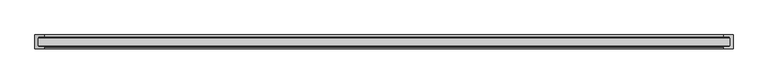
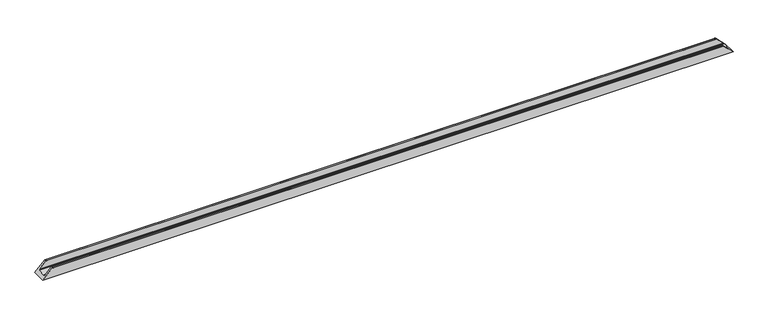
"""IFC4 building model written with IfcOpenShell, lengths in millimetres: proxy geometry, Weiku - Montante - Caixilho único 02.3.02.403 : Weiku - Montante - Caixilho único 02.3.02.403."""

from ifc_helpers import new_model, si_unit, frame, origin, place, context, project, spatial, ellipse_curve, source, transform, mapped, element, save
from ifc_brep_helpers import plane_surface, cylinder_surface, advanced_brep


def generic_models_b6feb387(model_context):
    return source(origin(), model_context, "Body", "AdvancedBrep", [
        advanced_brep(
        [(-1977.8, -9.8, 18.2), (1977.8, -9.8, 18.2), (1940.1, -9.8, 55.9), (-1940.1, -9.8, 55.9), (-1980.3000079, -63.85, 15.6999921), (1980.3000079, -63.85, 15.6999921), (1980.3000079, -15.05, 15.6999921), (-1980.3000079, -15.05, 15.6999921), (-1996.0, -78.9, 0.0), (-1996.0, 0.0, 0.0), (1996.0, 0.0, 0.0), (1996.0, -78.9, 0.0), (-1940.1, 0.0, 55.9), (1940.1, 0.0, 55.9), (-1939.6, -9.3, 56.4), (1939.6, -9.3, 56.4), (1939.6, -0.5, 56.4), (-1939.6, -0.5, 56.4), (-1977.8, -15.05, 18.2), (1977.8, -15.05, 18.2), (-1977.8, -63.85, 18.2), (1977.8, -63.85, 18.2), (-1977.8, -69.1, 18.2), (1977.8, -69.1, 18.2), (-1940.1, -69.1, 55.9), (1940.1, -69.1, 55.9), (-1939.6, -78.4, 56.4), (1939.6, -78.4, 56.4), (1939.6, -69.6, 56.4), (-1939.6, -69.6, 56.4), (-1940.1, -78.9, 55.9), (1940.1, -78.9, 55.9)],
        [
            (0, 1),
            (1, 2),
            (2, 3),
            (3, 0),
            (4, 5),
            (5, 6),
            (6, 7),
            (7, 4),
            (8, 9),
            (9, 10),
            (10, 11),
            (11, 8),
            (9, 12),
            (12, 13),
            (13, 10),
            (14, 15),
            (15, 16),
            (16, 17),
            (17, 14),
            (18, 19),
            (19, 1),
            (0, 18),
            (6, 19),
            (18, 7),
            (16, 13, ellipse_curve(frame((1940.1, -0.5, 55.9), z_axis=(-0.7071067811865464, 0.0, -0.7071067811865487), x_axis=(-0.7071067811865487, 0.0, 0.7071067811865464)), 0.7071068, 0.5)),
            (12, 17, ellipse_curve(frame((-1940.1, -0.5, 55.9), z_axis=(0.7071067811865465, 0.0, -0.7071067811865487), x_axis=(-0.7071067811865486, 0.0, -0.7071067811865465)), 0.7071068, 0.5)),
            (20, 21),
            (21, 5),
            (4, 20),
            (22, 23),
            (23, 21),
            (20, 22),
            (24, 25),
            (25, 23),
            (22, 24),
            (26, 27),
            (27, 28),
            (28, 29),
            (29, 26),
            (30, 31),
            (31, 27, ellipse_curve(frame((1940.1, -78.4, 55.9), z_axis=(-0.7071067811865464, 0.0, -0.7071067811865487), x_axis=(-0.7071067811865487, 0.0, 0.7071067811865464)), 0.7071068, 0.5)),
            (26, 30, ellipse_curve(frame((-1940.1, -78.4, 55.9), z_axis=(0.7071067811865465, 0.0, -0.7071067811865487), x_axis=(-0.7071067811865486, 0.0, -0.7071067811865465)), 0.7071068, 0.5)),
            (11, 31),
            (30, 8),
            (2, 15, ellipse_curve(frame((1940.1, -9.3, 55.9), z_axis=(-0.7071067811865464, 0.0, -0.7071067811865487), x_axis=(-0.7071067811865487, 0.0, 0.7071067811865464)), 0.7071068, 0.5)),
            (14, 3, ellipse_curve(frame((-1940.1, -9.3, 55.9), z_axis=(0.7071067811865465, 0.0, -0.7071067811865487), x_axis=(-0.7071067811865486, 0.0, -0.7071067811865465)), 0.7071068, 0.5)),
            (28, 25, ellipse_curve(frame((1940.1, -69.6, 55.9), z_axis=(-0.7071067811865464, 0.0, -0.7071067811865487), x_axis=(-0.7071067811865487, 0.0, 0.7071067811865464)), 0.7071068, 0.5)),
            (24, 29, ellipse_curve(frame((-1940.1, -69.6, 55.9), z_axis=(0.7071067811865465, 0.0, -0.7071067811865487), x_axis=(-0.7071067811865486, 0.0, -0.7071067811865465)), 0.7071068, 0.5)),
        ],
        [
            plane_surface(frame((-1996.0, -9.8, 55.9), z_axis=(0.0, -1.0, 0.0), x_axis=(1.0, 0.0, 0.0))),
            plane_surface(frame((-1996.0, -15.05, 15.6999921), z_axis=(0.0, 0.0, 1.0), x_axis=(1.0, 0.0, 0.0))),
            plane_surface(frame((-1996.0, -78.9, 0.0), z_axis=(0.0, 0.0, -1.0), x_axis=(1.0, 0.0, 0.0))),
            plane_surface(frame((-1996.0, 0.0, 0.0), z_axis=(0.0, 1.0, 0.0), x_axis=(1.0, 0.0, 0.0))),
            plane_surface(frame((-1996.0, -0.5, 56.4), z_axis=(0.0, 0.0, 1.0), x_axis=(1.0, 0.0, 0.0))),
            plane_surface(frame((-1996.0, -9.8, 18.2), z_axis=(0.0, 0.0, 1.0), x_axis=(1.0, 0.0, 0.0))),
            plane_surface(frame((-1996.0, -15.05, 18.2), z_axis=(0.0, -1.0, 0.0), x_axis=(1.0, 0.0, 0.0))),
            cylinder_surface(frame((-1996.0, -0.5, 55.9), z_axis=(-1.0, 0.0, 0.0), x_axis=(0.0, -1.0, 0.0)), 0.5),
            plane_surface(frame((-1996.0, -63.85, 15.6999921), z_axis=(0.0, 1.0, 0.0), x_axis=(1.0, 0.0, 0.0))),
            plane_surface(frame((-1996.0, -63.85, 18.2), z_axis=(0.0, 0.0, 1.0), x_axis=(1.0, 0.0, 0.0))),
            plane_surface(frame((-1996.0, -69.1, 18.2), z_axis=(0.0, 1.0, 0.0), x_axis=(1.0, 0.0, 0.0))),
            plane_surface(frame((-1996.0, -69.6, 56.4), z_axis=(0.0, 0.0, 1.0), x_axis=(1.0, 0.0, 0.0))),
            cylinder_surface(frame((-1996.0, -78.4, 55.9), z_axis=(-1.0, 0.0, 0.0), x_axis=(0.0, 1.0, 0.0)), 0.5),
            plane_surface(frame((-1996.0, -78.9, 55.9), z_axis=(0.0, -1.0, 0.0), x_axis=(1.0, 0.0, 0.0))),
            cylinder_surface(frame((-1996.0, -9.3, 55.9), z_axis=(-1.0, 0.0, 0.0), x_axis=(0.0, -1.0, 0.0)), 0.5),
            cylinder_surface(frame((-1996.0, -69.6, 55.9), z_axis=(-1.0, 0.0, 0.0), x_axis=(0.0, -1.0, 0.0)), 0.5),
            plane_surface(frame((-1996.0, 0.0, 0.0), z_axis=(-0.7071067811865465, 0.0, 0.7071067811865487), x_axis=(0.0, -1.0, 0.0))),
            plane_surface(frame((1936.0, 0.0, 60.0), z_axis=(0.7071067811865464, 0.0, 0.7071067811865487), x_axis=(0.0, -1.0, 0.0))),
        ],
        [
            (0, [[1, 2, 3, 4]]),
            (1, [[5, 6, 7, 8]]),
            (2, [[9, 10, 11, 12]]),
            (3, [[13, 14, 15, -10]]),
            (4, [[16, 17, 18, 19]]),
            (5, [[20, 21, -1, 22]]),
            (6, [[-7, 23, -20, 24]]),
            (7, [[-18, 25, -14, 26]]),
            (8, [[27, 28, -5, 29]]),
            (9, [[30, 31, -27, 32]]),
            (10, [[33, 34, -30, 35]]),
            (11, [[36, 37, 38, 39]]),
            (12, [[40, 41, -36, 42]]),
            (13, [[43, -40, 44, -12]]),
            (14, [[-3, 45, -16, 46]]),
            (15, [[-38, 47, -33, 48]]),
            (16, [[-46, -19, -26, -13, -9, -44, -42, -39, -48, -35, -32, -29, -8, -24, -22, -4]]),
            (17, [[-21, -23, -6, -28, -31, -34, -47, -37, -41, -43, -11, -15, -25, -17, -45, -2]]),
        ],
    ),
    ])


if __name__ == "__main__":
    model = new_model("IFC4")
    model_context = context("Model", 3, world=origin())
    ifc_project = project(units=[si_unit("LENGTHUNIT", "METRE", prefix="MILLI")], contexts=[model_context])
    site = spatial("IfcSite", under=ifc_project)
    building = spatial("IfcBuilding", under=site)
    placement = place(None, origin())
    generic_models_shape = generic_models_b6feb387(model_context)
    element("IfcBuildingElementProxy", 1, Name="Weiku - Montante - Caixilho único 02.3.02.403 : Weiku - Montante - Caixilho único 02.3.02.403", ObjectType="Weiku - Montante - Caixilho único 02.3.02.403 : Weiku - Montante - Caixilho único 02.3.02.403", at=placement, inside=building, context=model_context, shape_type="MappedRepresentation", body=[
        mapped(generic_models_shape, transform((0.0, 0.0, 0.0), x_axis=(1.0, 0.0, 0.0), y_axis=(0.0, 1.0, 0.0), z_axis=(0.0, 0.0, 1.0))),
    ])
    save(model, "model.ifc")
